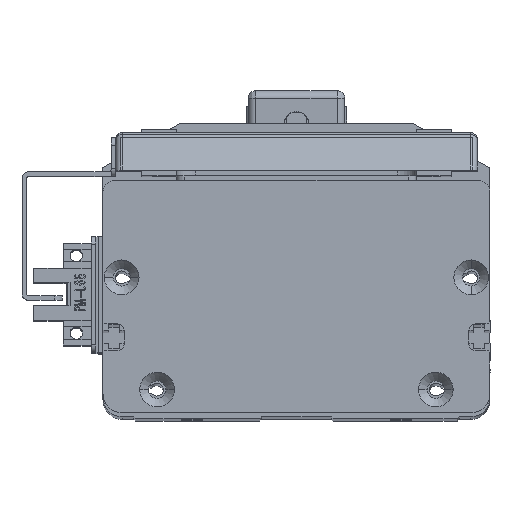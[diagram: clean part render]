
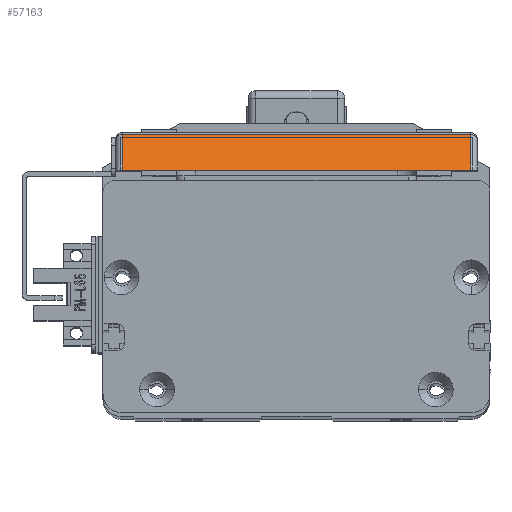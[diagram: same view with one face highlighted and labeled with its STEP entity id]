
A CAD part, top view. The second image highlights one B-rep face of the part: STEP entity #57163.
In plain terms, the highlighted planar face has unit normal (0, 0.707, 0.707) as drawn and (-0.707, 0, -0.707) by its records, which use the part's own axes.
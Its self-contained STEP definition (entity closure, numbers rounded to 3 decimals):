
#2147 = ORIENTED_EDGE ( 'NONE', *, *, #7251, .T. ) ;
#7251 = EDGE_CURVE ( 'NONE', #51071, #8201, #48756, .T. ) ;
#8201 = VERTEX_POINT ( 'NONE', #65094 ) ;
#10620 = EDGE_CURVE ( 'NONE', #32720, #51071, #39882, .T. ) ;
#11075 = EDGE_LOOP ( 'NONE', ( #38326, #23721, #60611, #2147 ) ) ;
#11561 = DIRECTION ( 'NONE',  ( 0., -1., 0. ) ) ;
#12251 = LINE ( 'NONE', #27135, #65809 ) ;
#13192 = LINE ( 'NONE', #57729, #65904 ) ;
#13249 = CARTESIAN_POINT ( 'NONE',  ( -66.5, 1.7, 4.1 ) ) ;
#15598 = DIRECTION ( 'NONE',  ( 0., 1., 0. ) ) ;
#16183 = CARTESIAN_POINT ( 'NONE',  ( -68., 93.4, 5.6 ) ) ;
#19307 = CARTESIAN_POINT ( 'NONE',  ( -66.5, 91.7, 4.1 ) ) ;
#19553 = CARTESIAN_POINT ( 'NONE',  ( -57.298, 91.7, -5.102 ) ) ;
#21338 = EDGE_CURVE ( 'NONE', #8201, #56932, #12251, .T. ) ;
#23721 = ORIENTED_EDGE ( 'NONE', *, *, #62629, .T. ) ;
#26150 = PLANE ( 'NONE',  #67117 ) ;
#26783 = VECTOR ( 'NONE', #11561, 1000. ) ;
#27135 = CARTESIAN_POINT ( 'NONE',  ( -68., 1.7, 5.6 ) ) ;
#31349 = DIRECTION ( 'NONE',  ( -0.707, 0., 0.707 ) ) ;
#32570 = DIRECTION ( 'NONE',  ( -0.707, 0., 0.707 ) ) ;
#32720 = VERTEX_POINT ( 'NONE', #19307 ) ;
#33060 = CARTESIAN_POINT ( 'NONE',  ( -57.298, 93.4, -5.102 ) ) ;
#35320 = DIRECTION ( 'NONE',  ( 0.707, 0., -0.707 ) ) ;
#38326 = ORIENTED_EDGE ( 'NONE', *, *, #21338, .T. ) ;
#39882 = LINE ( 'NONE', #55977, #41541 ) ;
#40754 = FACE_OUTER_BOUND ( 'NONE', #11075, .T. ) ;
#41541 = VECTOR ( 'NONE', #35320, 1000. ) ;
#48756 = LINE ( 'NONE', #33060, #26783 ) ;
#51071 = VERTEX_POINT ( 'NONE', #19553 ) ;
#55977 = CARTESIAN_POINT ( 'NONE',  ( -68., 91.7, 5.6 ) ) ;
#56932 = VERTEX_POINT ( 'NONE', #13249 ) ;
#57163 = ADVANCED_FACE ( 'NONE', ( #40754 ), #26150, .T. ) ;
#57639 = DIRECTION ( 'NONE',  ( -0.707, 0., -0.707 ) ) ;
#57729 = CARTESIAN_POINT ( 'NONE',  ( -66.5, 93.4, 4.1 ) ) ;
#60611 = ORIENTED_EDGE ( 'NONE', *, *, #10620, .T. ) ;
#62629 = EDGE_CURVE ( 'NONE', #56932, #32720, #13192, .T. ) ;
#65094 = CARTESIAN_POINT ( 'NONE',  ( -57.298, 1.7, -5.102 ) ) ;
#65809 = VECTOR ( 'NONE', #32570, 1000. ) ;
#65904 = VECTOR ( 'NONE', #15598, 1000. ) ;
#67117 = AXIS2_PLACEMENT_3D ( 'NONE', #16183, #57639, #31349 ) ;
